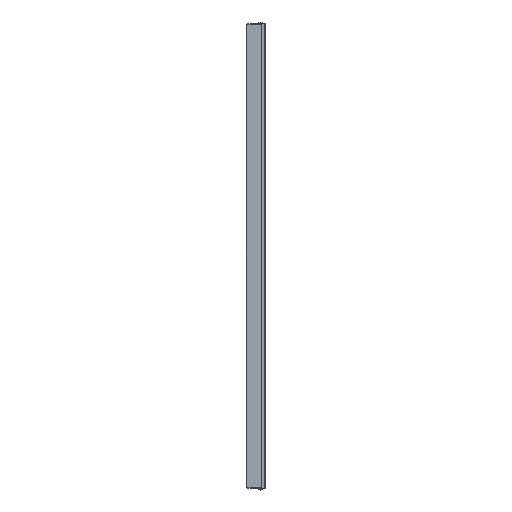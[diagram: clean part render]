
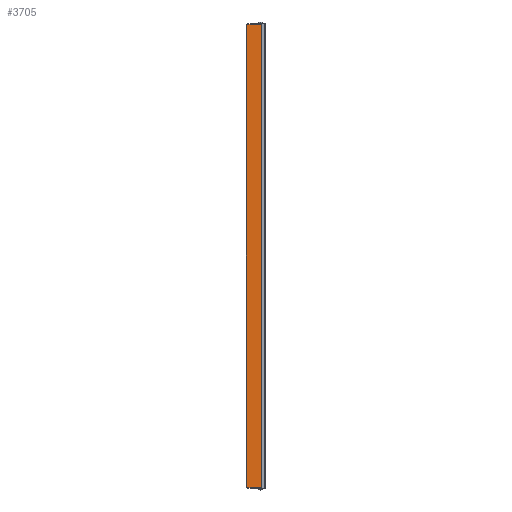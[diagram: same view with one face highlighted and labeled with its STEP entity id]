
A CAD part, left-side view. The second image highlights one B-rep face of the part: STEP entity #3705.
In plain terms, the highlighted planar face has unit normal (-1, 0, 0).
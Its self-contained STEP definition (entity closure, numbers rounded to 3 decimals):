
#189=DIRECTION('',(0.,1.,0.));
#190=VECTOR('',#189,3.3);
#191=CARTESIAN_POINT('',(-19.,13.2,319.5));
#192=LINE('',#191,#190);
#389=DIRECTION('',(0.,0.,-1.));
#390=VECTOR('',#389,1.);
#391=CARTESIAN_POINT('',(-19.,13.2,-319.5));
#392=LINE('',#391,#390);
#401=DIRECTION('',(0.,1.,0.));
#402=VECTOR('',#401,3.3);
#403=CARTESIAN_POINT('',(-19.,13.2,-319.5));
#404=LINE('',#403,#402);
#405=DIRECTION('',(0.,0.,1.));
#406=VECTOR('',#405,1.);
#407=CARTESIAN_POINT('',(-19.,13.2,319.5));
#408=LINE('',#407,#406);
#413=DIRECTION('',(0.,0.,1.));
#414=VECTOR('',#413,641.);
#415=CARTESIAN_POINT('',(-19.,-4.3,-320.5));
#416=LINE('',#415,#414);
#961=DIRECTION('',(0.,-1.,0.));
#962=VECTOR('',#961,17.5);
#963=CARTESIAN_POINT('',(-19.,13.2,-320.5));
#964=LINE('',#963,#962);
#2117=DIRECTION('',(0.,1.,0.));
#2118=VECTOR('',#2117,17.5);
#2119=CARTESIAN_POINT('',(-19.,-4.3,320.5));
#2120=LINE('',#2119,#2118);
#2321=DIRECTION('',(0.,0.,-1.));
#2322=VECTOR('',#2321,639.);
#2323=CARTESIAN_POINT('',(-19.,16.5,319.5));
#2324=LINE('',#2323,#2322);
#2357=CARTESIAN_POINT('',(-19.,16.5,-319.5));
#2358=VERTEX_POINT('',#2357);
#2367=CARTESIAN_POINT('',(-19.,16.5,319.5));
#2368=VERTEX_POINT('',#2367);
#2413=CARTESIAN_POINT('',(-19.,13.2,320.5));
#2414=VERTEX_POINT('',#2413);
#2619=CARTESIAN_POINT('',(-19.,-4.3,320.5));
#2621=VERTEX_POINT('',#2619);
#2701=CARTESIAN_POINT('',(-19.,13.2,319.5));
#2703=VERTEX_POINT('',#2701);
#2775=CARTESIAN_POINT('',(-19.,13.2,-320.5));
#2777=VERTEX_POINT('',#2775);
#2781=CARTESIAN_POINT('',(-19.,-4.3,-320.5));
#2782=VERTEX_POINT('',#2781);
#3011=CARTESIAN_POINT('',(-19.,13.2,-319.5));
#3012=VERTEX_POINT('',#3011);
#3686=CARTESIAN_POINT('',(-19.,16.5,-319.5));
#3687=DIRECTION('',(-1.,0.,0.));
#3688=DIRECTION('',(0.,-1.,0.));
#3689=AXIS2_PLACEMENT_3D('',#3686,#3687,#3688);
#3690=PLANE('',#3689);
#3692=ORIENTED_EDGE('',*,*,#3691,.F.);
#3694=ORIENTED_EDGE('',*,*,#3693,.F.);
#3695=ORIENTED_EDGE('',*,*,#3677,.F.);
#3696=ORIENTED_EDGE('',*,*,#3126,.T.);
#3698=ORIENTED_EDGE('',*,*,#3697,.F.);
#3699=ORIENTED_EDGE('',*,*,#3356,.F.);
#3700=ORIENTED_EDGE('',*,*,#3522,.T.);
#3702=ORIENTED_EDGE('',*,*,#3701,.F.);
#3703=EDGE_LOOP('',(#3692,#3694,#3695,#3696,#3698,#3699,#3700,#3702));
#3704=FACE_OUTER_BOUND('',#3703,.F.);
#3126=EDGE_CURVE('',#3012,#2358,#404,.T.);
#3356=EDGE_CURVE('',#2703,#2368,#192,.T.);
#3522=EDGE_CURVE('',#2703,#2414,#408,.T.);
#3677=EDGE_CURVE('',#3012,#2777,#392,.T.);
#3691=EDGE_CURVE('',#2782,#2621,#416,.T.);
#3693=EDGE_CURVE('',#2777,#2782,#964,.T.);
#3697=EDGE_CURVE('',#2368,#2358,#2324,.T.);
#3701=EDGE_CURVE('',#2621,#2414,#2120,.T.);
#3705=ADVANCED_FACE('',(#3704),#3690,.T.);
